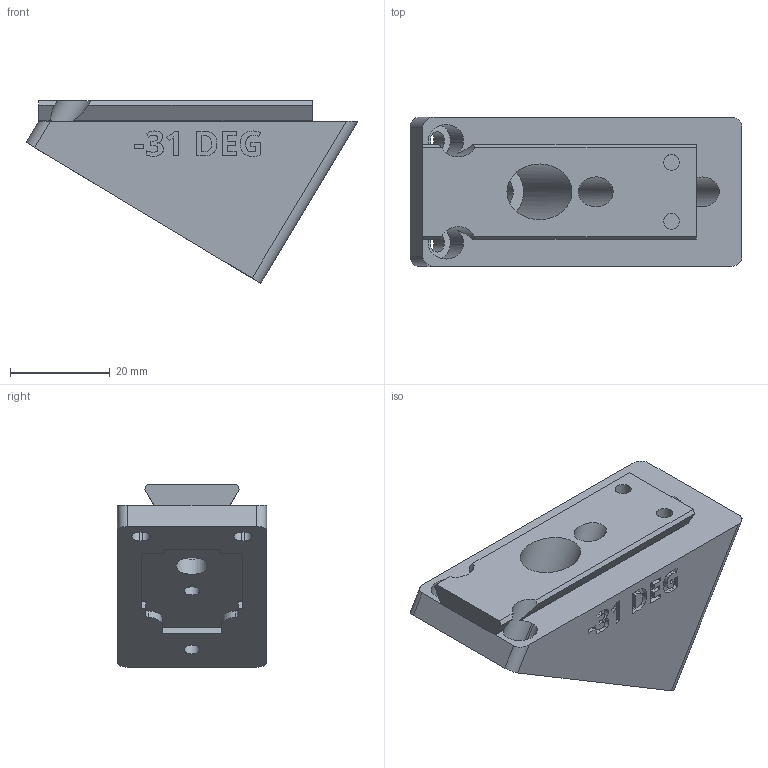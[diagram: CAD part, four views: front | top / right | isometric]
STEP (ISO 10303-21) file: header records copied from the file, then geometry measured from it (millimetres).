
FILE_DESCRIPTION(/* description */ ('STEP AP242 Edition 2','CAx-IF Rec.Pracs.---Representation and Presentation of Product Manufacturing Information (PMI)---4.0---2014-10-13','CAx-IF Rec.Pracs.---3D Tessellated Geometry---0.4---2014-09-14','2;1','CAx-IF Rec.Pracs.---User Defined Attributes---1.5---2016-08-15'),/* implementation_level */ '2;1');
FILE_NAME(/* name */ 'Camera Wedges - CAMERA MOUNTING WEDGE, NEG, -31 DEG',/* time_stamp */ '2026-07-08T20:36:28Z',/* author */ (''),/* organization */ (''),/* preprocessor_version */ 'ST-DEVELOPER v20',/* originating_system */ 'ONSHAPE BY PTC INC, 1.217',/* authorisation */ ' ');
FILE_SCHEMA (('AP242_MANAGED_MODEL_BASED_3D_ENGINEERING_MIM_LF { 1 0 10303 442 3 1 4 }'));
Length unit declared in the file: metre
Products named in the file (1): CAMERA MOUNTING WEDGE, NEG, -31 DEG
Bounding box: 66.72 x 30 x 36.67 mm (x, y, z)
Volume: 34677.5 mm3; surface area: 10148.6 mm2
Topology: 1 solids, 1 shells, 259 faces, 712 edges, 474 vertices
Faces by surface type: plane 151, bspline 66, cylinder 42
Full cylindrical faces by diameter (mm): 3.2 x4, 6 x2, 6.4 x1, 11.2 x1
Entity records: 8404 total; most frequent: CARTESIAN_POINT 2162, ORIENTED_EDGE 1406, DIRECTION 1056, EDGE_CURVE 703, LINE 474, VECTOR 474, VERTEX_POINT 473, EDGE_LOOP 296
